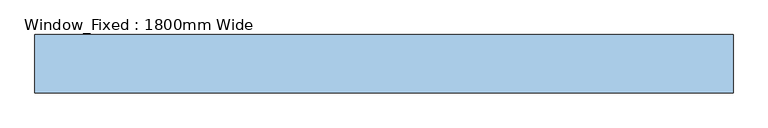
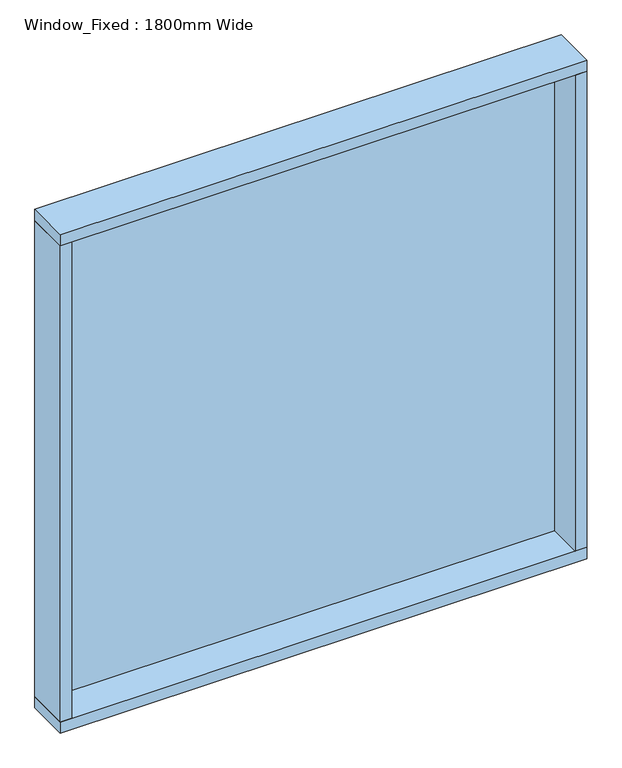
"""IFC4 building model written with IfcOpenShell, lengths in millimetres: window geometry, Window_Fixed : 1800mm Wide."""

from ifc_helpers import new_model, si_unit, frame, origin, place, context, project, spatial, polyline, outline, extrude, source, transform, mapped, element, save


def window_fixed_1800mm_wide_7e584eee(model_context):
    return source(origin(), model_context, "Body", "SweptSolid", [
        extrude(outline(polyline([(860.0, 120.0), (860.0, 108.0), (-860.0, 108.0), (-860.0, 120.0), (860.0, 120.0)])), frame((0.0, 0.0, 290.0), z_axis=(0.0, 0.0, 1.0), x_axis=(1.0, 0.0, 0.0)), (0.0, 0.0, 1.0), 1720.0),
        extrude(outline(polyline([(900.0, 135.0), (900.0, -15.0), (-900.0, -15.0), (-900.0, 135.0), (900.0, 135.0)])), frame((0.0, 0.0, 2010.0), z_axis=(0.0, 0.0, 1.0), x_axis=(1.0, 0.0, 0.0)), (0.0, 0.0, 1.0), 40.0),
        extrude(outline(polyline([(900.0, 135.0), (900.0, -15.0), (-900.0, -15.0), (-900.0, 135.0), (900.0, 135.0)])), frame((0.0, 0.0, 250.0), z_axis=(0.0, 0.0, 1.0), x_axis=(1.0, 0.0, 0.0)), (0.0, 0.0, 1.0), 40.0),
        extrude(outline(polyline([(-860.0, -15.0), (-900.0, -15.0), (-900.0, 135.0), (-860.0, 135.0), (-860.0, -15.0)])), frame((0.0, 0.0, 290.0), z_axis=(0.0, 0.0, 1.0), x_axis=(1.0, 0.0, 0.0)), (0.0, 0.0, 1.0), 1720.0),
        extrude(outline(polyline([(860.0, -15.0), (860.0, 135.0), (900.0, 135.0), (900.0, -15.0), (860.0, -15.0)])), frame((0.0, 0.0, 290.0), z_axis=(0.0, 0.0, 1.0), x_axis=(1.0, 0.0, 0.0)), (0.0, 0.0, 1.0), 1720.0),
    ])


if __name__ == "__main__":
    model = new_model("IFC4")
    model_context = context("Model", 3, world=origin())
    ifc_project = project(units=[si_unit("LENGTHUNIT", "METRE", prefix="MILLI")], contexts=[model_context])
    site = spatial("IfcSite", under=ifc_project)
    building = spatial("IfcBuilding", under=site)
    placement = place(None, origin())
    window_fixed_1800mm_wide_shape = window_fixed_1800mm_wide_7e584eee(model_context)
    element("IfcWindow", 1, ObjectType="Window_Fixed : 1800mm Wide", at=placement, inside=building, context=model_context, shape_type="MappedRepresentation", body=[
        mapped(window_fixed_1800mm_wide_shape, transform((0.0, 0.0, 0.0), x_axis=(1.0, 0.0, 0.0), y_axis=(0.0, 1.0, 0.0), z_axis=(0.0, 0.0, 1.0))),
    ])
    save(model, "model.ifc")
